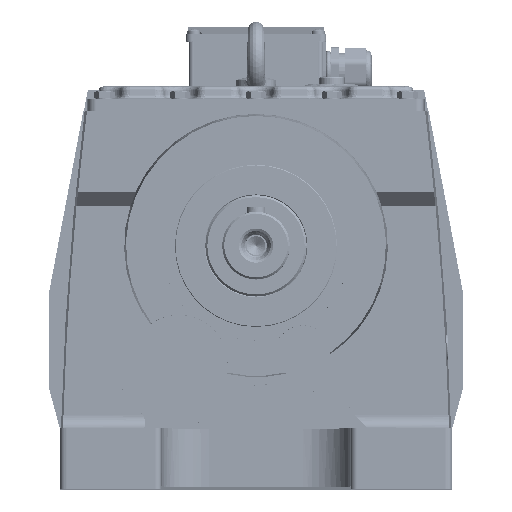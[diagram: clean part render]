
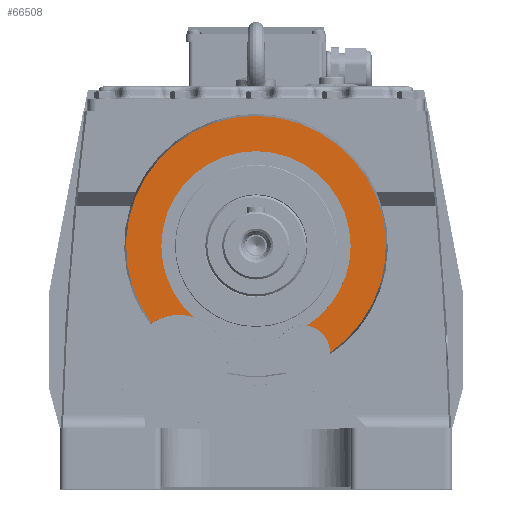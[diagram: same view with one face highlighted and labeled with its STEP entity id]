
A CAD part, top view. The second image highlights one B-rep face of the part: STEP entity #66508.
In plain terms, the highlighted planar face has unit normal (0, 0, 1).
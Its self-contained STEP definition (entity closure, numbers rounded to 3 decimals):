
#9051 = CIRCLE ( 'NONE', #45238, 36. ) ;
#9124 = CIRCLE ( 'NONE', #45335, 70. ) ;
#9179 = CIRCLE ( 'NONE', #45357, 96.138 ) ;
#12886 = DIRECTION ( 'NONE',  ( 0., 0., -1. ) ) ;
#12965 = CARTESIAN_POINT ( 'NONE',  ( -56.95, -87.021, 153. ) ) ;
#12975 = DIRECTION ( 'NONE',  ( -1., 0., 0. ) ) ;
#13246 = CARTESIAN_POINT ( 'NONE',  ( 0., 0., 153. ) ) ;
#13251 = DIRECTION ( 'NONE',  ( -1., 0., 0. ) ) ;
#13256 = DIRECTION ( 'NONE',  ( 0., 0., -1. ) ) ;
#13421 = CARTESIAN_POINT ( 'NONE',  ( 0., 0., 153. ) ) ;
#13435 = DIRECTION ( 'NONE',  ( 0., 0., -1. ) ) ;
#13495 = DIRECTION ( 'NONE',  ( 0., 1., 0. ) ) ;
#15647 = CARTESIAN_POINT ( 'NONE',  ( 34.675, -78.719, 153. ) ) ;
#15649 = DIRECTION ( 'NONE',  ( 0., 0., -1. ) ) ;
#15654 = DIRECTION ( 'NONE',  ( -1., 0., 0. ) ) ;
#15721 = DIRECTION ( 'NONE',  ( 0., 0., -1. ) ) ;
#15741 = DIRECTION ( 'NONE',  ( 0., 1., 0. ) ) ;
#15795 = CARTESIAN_POINT ( 'NONE',  ( 0., 0., 153. ) ) ;
#15929 = CARTESIAN_POINT ( 'NONE',  ( 34.675, -78.719, 153. ) ) ;
#15935 = DIRECTION ( 'NONE',  ( -1., 0., 0. ) ) ;
#16015 = DIRECTION ( 'NONE',  ( 0., 0., -1. ) ) ;
#16040 = CARTESIAN_POINT ( 'NONE',  ( 0., 0., 153. ) ) ;
#16069 = DIRECTION ( 'NONE',  ( -1., 0., 0. ) ) ;
#16099 = DIRECTION ( 'NONE',  ( 0., 0., -1. ) ) ;
#16137 = DIRECTION ( 'NONE',  ( 0., 0., -1. ) ) ;
#16155 = DIRECTION ( 'NONE',  ( -1., 0., 0. ) ) ;
#16179 = CARTESIAN_POINT ( 'NONE',  ( 0., 0., 153. ) ) ;
#44621 = CARTESIAN_POINT ( 'NONE',  ( 37.74, -58.955, 153. ) ) ;
#44626 = CARTESIAN_POINT ( 'NONE',  ( -77.219, -57.269, 153. ) ) ;
#44699 = CARTESIAN_POINT ( 'NONE',  ( 70., 0., 153. ) ) ;
#44720 = CARTESIAN_POINT ( 'NONE',  ( 54.675, -78.719, 153. ) ) ;
#44761 = CARTESIAN_POINT ( 'NONE',  ( -70., 0., 153. ) ) ;
#44767 = CARTESIAN_POINT ( 'NONE',  ( 0., 96.138, 153. ) ) ;
#44773 = CARTESIAN_POINT ( 'NONE',  ( 54.671, -79.08, 153. ) ) ;
#44789 = CARTESIAN_POINT ( 'NONE',  ( -46.066, -52.706, 153. ) ) ;
#45238 = AXIS2_PLACEMENT_3D ( 'NONE', #12965, #12886, #12975 ) ;
#45335 = AXIS2_PLACEMENT_3D ( 'NONE', #13246, #13256, #13251 ) ;
#45357 = AXIS2_PLACEMENT_3D ( 'NONE', #13421, #13435, #13495 ) ;
#62879 = ORIENTED_EDGE ( 'NONE', *, *, #88834, .T. ) ;
#62924 = ORIENTED_EDGE ( 'NONE', *, *, #274423, .T. ) ;
#63034 = ORIENTED_EDGE ( 'NONE', *, *, #274448, .F. ) ;
#63052 = ORIENTED_EDGE ( 'NONE', *, *, #274542, .T. ) ;
#63099 = ORIENTED_EDGE ( 'NONE', *, *, #274502, .T. ) ;
#63226 = ORIENTED_EDGE ( 'NONE', *, *, #274588, .T. ) ;
#63354 = ORIENTED_EDGE ( 'NONE', *, *, #88954, .F. ) ;
#63362 = ORIENTED_EDGE ( 'NONE', *, *, #88706, .T. ) ;
#66508 = ADVANCED_FACE ( 'NONE', ( #82888 ), #92635, .T. ) ;
#82888 = FACE_OUTER_BOUND ( 'NONE', #211355, .T. ) ;
#88706 = EDGE_CURVE ( 'NONE', #112366, #112643, #9051, .T. ) ;
#88834 = EDGE_CURVE ( 'NONE', #112440, #112386, #9124, .T. ) ;
#88954 = EDGE_CURVE ( 'NONE', #112567, #112710, #9179, .T. ) ;
#92627 = CARTESIAN_POINT ( 'NONE',  ( 0., 0., 153. ) ) ;
#92629 = DIRECTION ( 'NONE',  ( 1., 0., 0. ) ) ;
#92635 = PLANE ( 'NONE',  #220208 ) ;
#92669 = DIRECTION ( 'NONE',  ( 0., 0., 1. ) ) ;
#112366 = VERTEX_POINT ( 'NONE', #44626 ) ;
#112386 = VERTEX_POINT ( 'NONE', #44621 ) ;
#112440 = VERTEX_POINT ( 'NONE', #44699 ) ;
#112466 = VERTEX_POINT ( 'NONE', #44720 ) ;
#112567 = VERTEX_POINT ( 'NONE', #44767 ) ;
#112623 = VERTEX_POINT ( 'NONE', #44761 ) ;
#112643 = VERTEX_POINT ( 'NONE', #44789 ) ;
#112710 = VERTEX_POINT ( 'NONE', #44773 ) ;
#211355 = EDGE_LOOP ( 'NONE', ( #63034, #63362, #63226, #63052, #62879, #63099, #62924, #63354 ) ) ;
#220208 = AXIS2_PLACEMENT_3D ( 'NONE', #92627, #92669, #92629 ) ;
#258713 = CIRCLE ( 'NONE', #263835, 20. ) ;
#258840 = CIRCLE ( 'NONE', #263906, 70. ) ;
#258954 = CIRCLE ( 'NONE', #263827, 70. ) ;
#260536 = CIRCLE ( 'NONE', #263934, 96.138 ) ;
#260586 = CIRCLE ( 'NONE', #263859, 20. ) ;
#263827 = AXIS2_PLACEMENT_3D ( 'NONE', #16179, #16137, #16155 ) ;
#263835 = AXIS2_PLACEMENT_3D ( 'NONE', #15929, #16015, #15935 ) ;
#263859 = AXIS2_PLACEMENT_3D ( 'NONE', #15647, #15649, #15654 ) ;
#263906 = AXIS2_PLACEMENT_3D ( 'NONE', #16040, #16099, #16069 ) ;
#263934 = AXIS2_PLACEMENT_3D ( 'NONE', #15795, #15721, #15741 ) ;
#274423 = EDGE_CURVE ( 'NONE', #112466, #112710, #260586, .T. ) ;
#274448 = EDGE_CURVE ( 'NONE', #112366, #112567, #260536, .T. ) ;
#274502 = EDGE_CURVE ( 'NONE', #112386, #112466, #258713, .T. ) ;
#274542 = EDGE_CURVE ( 'NONE', #112623, #112440, #258840, .T. ) ;
#274588 = EDGE_CURVE ( 'NONE', #112643, #112623, #258954, .T. ) ;
